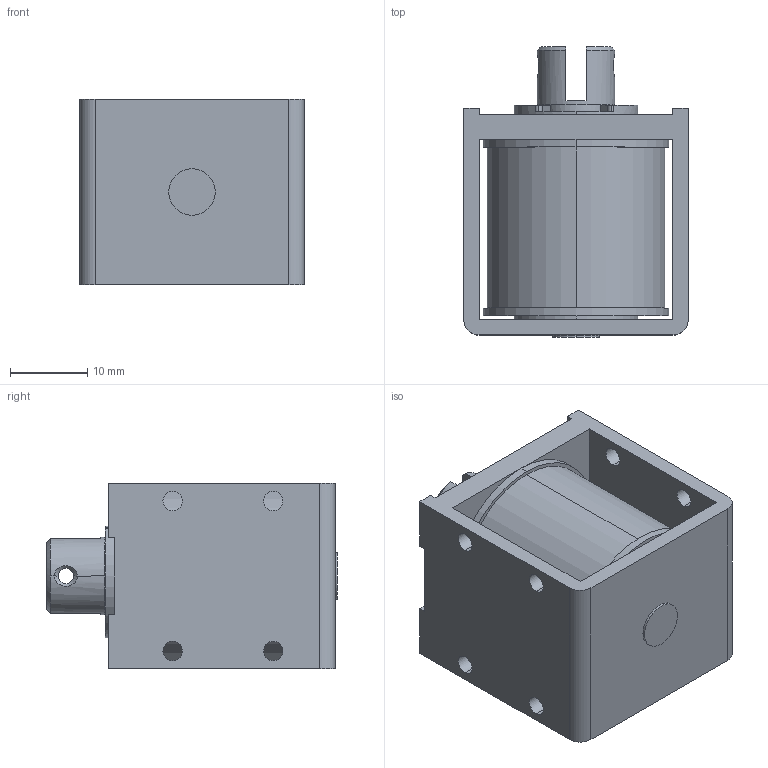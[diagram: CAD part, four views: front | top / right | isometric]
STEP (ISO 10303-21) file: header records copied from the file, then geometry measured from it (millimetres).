
FILE_DESCRIPTION (( 'STEP AP203' ), '1' );
FILE_NAME ('w_ce1029.STEP', '2014-07-24T02:22:07', ( 'jiba' ), ( 'Hewlett-Packard Company' ), 'SwSTEP 2.0', 'SolidWorks 2014', '' );
FILE_SCHEMA (( 'CONFIG_CONTROL_DESIGN' ));
Length unit declared in the file: millimetre
Products named in the file (3): Part1^w_ce1029; Part1^w_ce1029_pl; w_ce1029
Assembly tree (2 placements, depth 2):
  w_ce1029
    Part1^w_ce1029
    Part1^w_ce1029_pl
Bounding box: 29 x 37.6 x 24 mm (x, y, z)
Volume: 15917.2 mm3; surface area: 9226.6 mm2
Topology: 2 solids, 2 shells, 131 faces, 353 edges, 227 vertices
Faces by surface type: cylinder 69, plane 55, cone 7
Entity records: 4585 total; most frequent: CARTESIAN_POINT 800, DIRECTION 782, ORIENTED_EDGE 706, EDGE_CURVE 353, AXIS2_PLACEMENT_3D 301, VERTEX_POINT 227, LINE 180, VECTOR 180
